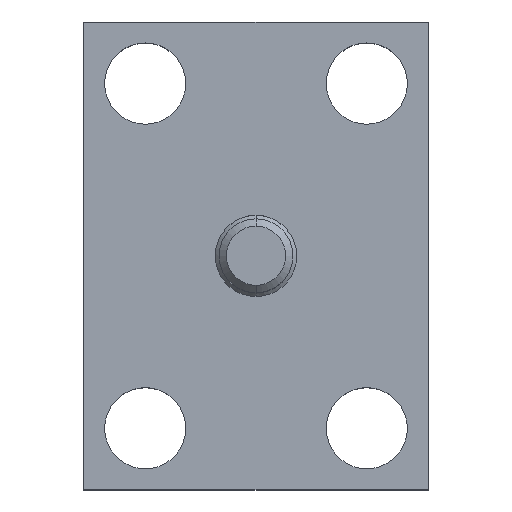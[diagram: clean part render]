
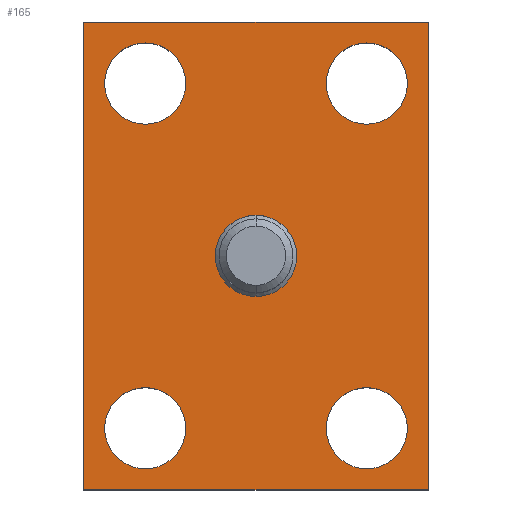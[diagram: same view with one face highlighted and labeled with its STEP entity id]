
A CAD part, top view. The second image highlights one B-rep face of the part: STEP entity #165.
In plain terms, the highlighted planar face has unit normal (0, 0, 1).
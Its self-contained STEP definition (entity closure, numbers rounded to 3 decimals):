
#117=CIRCLE('',#668,3.3);
#118=CIRCLE('',#669,3.3);
#119=CIRCLE('',#670,3.3);
#120=CIRCLE('',#671,3.3);
#121=CIRCLE('',#672,3.3);
#122=CIRCLE('',#673,3.3);
#123=CIRCLE('',#674,3.3);
#124=CIRCLE('',#675,3.3);
#125=CIRCLE('',#676,3.3);
#126=CIRCLE('',#677,3.3);
#147=FACE_BOUND('',#243,.T.);
#148=FACE_BOUND('',#244,.T.);
#149=FACE_BOUND('',#245,.T.);
#150=FACE_BOUND('',#246,.T.);
#151=FACE_BOUND('',#247,.T.);
#152=FACE_BOUND('',#248,.T.);
#165=ADVANCED_FACE('',(#147,#148,#149,#150,#151,#152),#198,.T.);
#198=PLANE('',#678);
#243=EDGE_LOOP('',(#299,#300,#301,#302));
#244=EDGE_LOOP('',(#303,#304));
#245=EDGE_LOOP('',(#305,#306));
#246=EDGE_LOOP('',(#307,#308));
#247=EDGE_LOOP('',(#309,#310));
#248=EDGE_LOOP('',(#311,#312));
#299=ORIENTED_EDGE('',*,*,#490,.T.);
#300=ORIENTED_EDGE('',*,*,#494,.T.);
#301=ORIENTED_EDGE('',*,*,#497,.T.);
#302=ORIENTED_EDGE('',*,*,#500,.T.);
#303=ORIENTED_EDGE('',*,*,#501,.T.);
#304=ORIENTED_EDGE('',*,*,#502,.T.);
#305=ORIENTED_EDGE('',*,*,#503,.T.);
#306=ORIENTED_EDGE('',*,*,#504,.T.);
#307=ORIENTED_EDGE('',*,*,#505,.T.);
#308=ORIENTED_EDGE('',*,*,#506,.T.);
#309=ORIENTED_EDGE('',*,*,#507,.T.);
#310=ORIENTED_EDGE('',*,*,#508,.T.);
#311=ORIENTED_EDGE('',*,*,#509,.T.);
#312=ORIENTED_EDGE('',*,*,#510,.T.);
#440=VERTEX_POINT('',#906);
#441=VERTEX_POINT('',#908);
#444=VERTEX_POINT('',#915);
#446=VERTEX_POINT('',#921);
#447=VERTEX_POINT('',#929);
#448=VERTEX_POINT('',#930);
#449=VERTEX_POINT('',#933);
#450=VERTEX_POINT('',#934);
#451=VERTEX_POINT('',#937);
#452=VERTEX_POINT('',#938);
#453=VERTEX_POINT('',#941);
#454=VERTEX_POINT('',#942);
#455=VERTEX_POINT('',#945);
#456=VERTEX_POINT('',#946);
#490=EDGE_CURVE('',#441,#440,#568,.T.);
#494=EDGE_CURVE('',#440,#444,#572,.T.);
#497=EDGE_CURVE('',#444,#446,#575,.T.);
#500=EDGE_CURVE('',#446,#441,#578,.T.);
#501=EDGE_CURVE('',#447,#448,#117,.T.);
#502=EDGE_CURVE('',#448,#447,#118,.T.);
#503=EDGE_CURVE('',#449,#450,#119,.T.);
#504=EDGE_CURVE('',#450,#449,#120,.T.);
#505=EDGE_CURVE('',#451,#452,#121,.T.);
#506=EDGE_CURVE('',#452,#451,#122,.T.);
#507=EDGE_CURVE('',#453,#454,#123,.T.);
#508=EDGE_CURVE('',#454,#453,#124,.T.);
#509=EDGE_CURVE('',#455,#456,#125,.T.);
#510=EDGE_CURVE('',#456,#455,#126,.T.);
#568=LINE('',#907,#616);
#572=LINE('',#916,#620);
#575=LINE('',#922,#623);
#578=LINE('',#926,#626);
#616=VECTOR('',#730,1.);
#620=VECTOR('',#736,1.);
#623=VECTOR('',#741,1.);
#626=VECTOR('',#746,1.);
#668=AXIS2_PLACEMENT_3D('',#928,#749,#750);
#669=AXIS2_PLACEMENT_3D('',#931,#751,#752);
#670=AXIS2_PLACEMENT_3D('',#932,#753,#754);
#671=AXIS2_PLACEMENT_3D('',#935,#755,#756);
#672=AXIS2_PLACEMENT_3D('',#936,#757,#758);
#673=AXIS2_PLACEMENT_3D('',#939,#759,#760);
#674=AXIS2_PLACEMENT_3D('',#940,#761,#762);
#675=AXIS2_PLACEMENT_3D('',#943,#763,#764);
#676=AXIS2_PLACEMENT_3D('',#944,#765,#766);
#677=AXIS2_PLACEMENT_3D('',#947,#767,#768);
#678=AXIS2_PLACEMENT_3D('',#948,#769,#770);
#730=DIRECTION('',(0.,-1.,0.));
#736=DIRECTION('',(1.,0.,0.));
#741=DIRECTION('',(0.,1.,0.));
#746=DIRECTION('',(-1.,0.,0.));
#749=DIRECTION('',(0.,0.,-1.));
#750=DIRECTION('',(-1.,0.,0.));
#751=DIRECTION('',(0.,0.,-1.));
#752=DIRECTION('',(1.,0.,0.));
#753=DIRECTION('',(0.,0.,-1.));
#754=DIRECTION('',(-1.,0.,0.));
#755=DIRECTION('',(0.,0.,-1.));
#756=DIRECTION('',(1.,0.,0.));
#757=DIRECTION('',(0.,0.,-1.));
#758=DIRECTION('',(-1.,0.,0.));
#759=DIRECTION('',(0.,0.,-1.));
#760=DIRECTION('',(1.,0.,0.));
#761=DIRECTION('',(0.,0.,-1.));
#762=DIRECTION('',(-1.,0.,0.));
#763=DIRECTION('',(0.,0.,-1.));
#764=DIRECTION('',(1.,0.,0.));
#765=DIRECTION('',(0.,0.,-1.));
#766=DIRECTION('',(-1.,0.,0.));
#767=DIRECTION('',(0.,0.,-1.));
#768=DIRECTION('',(1.,0.,0.));
#769=DIRECTION('',(0.,0.,1.));
#770=DIRECTION('',(-1.,0.,0.));
#906=CARTESIAN_POINT('',(-14.,-19.,9.));
#907=CARTESIAN_POINT('',(-14.,19.,9.));
#908=CARTESIAN_POINT('',(-14.,19.,9.));
#915=CARTESIAN_POINT('',(14.,-19.,9.));
#916=CARTESIAN_POINT('',(-14.,-19.,9.));
#921=CARTESIAN_POINT('',(14.,19.,9.));
#922=CARTESIAN_POINT('',(14.,19.,9.));
#926=CARTESIAN_POINT('',(-14.,19.,9.));
#928=CARTESIAN_POINT('',(9.,14.,9.));
#929=CARTESIAN_POINT('',(9.,17.3,9.));
#930=CARTESIAN_POINT('',(9.,10.7,9.));
#931=CARTESIAN_POINT('',(9.,14.,9.));
#932=CARTESIAN_POINT('',(-9.,14.,9.));
#933=CARTESIAN_POINT('',(-9.,17.3,9.));
#934=CARTESIAN_POINT('',(-9.,10.7,9.));
#935=CARTESIAN_POINT('',(-9.,14.,9.));
#936=CARTESIAN_POINT('',(-9.,-14.,9.));
#937=CARTESIAN_POINT('',(-9.,-10.7,9.));
#938=CARTESIAN_POINT('',(-9.,-17.3,9.));
#939=CARTESIAN_POINT('',(-9.,-14.,9.));
#940=CARTESIAN_POINT('',(9.,-14.,9.));
#941=CARTESIAN_POINT('',(9.,-10.7,9.));
#942=CARTESIAN_POINT('',(9.,-17.3,9.));
#943=CARTESIAN_POINT('',(9.,-14.,9.));
#944=CARTESIAN_POINT('',(0.,0.,9.));
#945=CARTESIAN_POINT('',(0.,3.3,9.));
#946=CARTESIAN_POINT('',(0.,-3.3,9.));
#947=CARTESIAN_POINT('',(0.,0.,9.));
#948=CARTESIAN_POINT('',(-14.,19.,9.));
